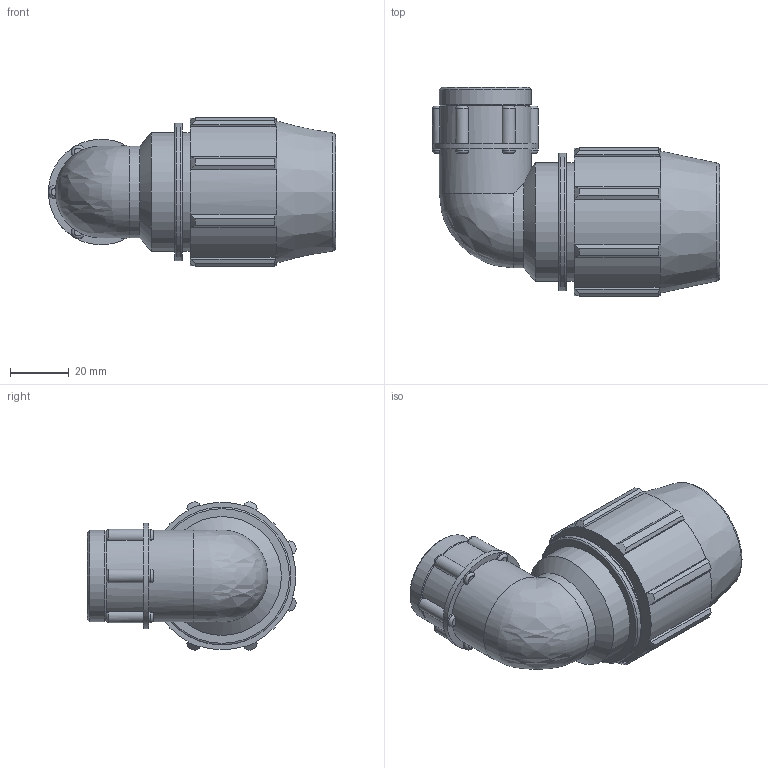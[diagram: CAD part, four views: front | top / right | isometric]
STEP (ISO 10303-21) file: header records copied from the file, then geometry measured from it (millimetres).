
FILE_DESCRIPTION(/* description */ ('PLASSON 90° ELBOW FEMALE ADAPTOR 3/4'''' - 3/4''''F'),/* implementation_level */ '2;1');
FILE_NAME(/* name */ 'C:\Dropbox\KIMPROJECTS-Inventor 2019\99-16-3568-Processing Inch\ASTM Compression 2021\0715M0\0715M0007007.ipt.stp',/* time_stamp */ '2021-08-26T12:33:43+03:00',/* author */ ('KIM'),/* organization */ (''),/* preprocessor_version */ 'ST-DEVELOPER v17.2',/* originating_system */ 'Autodesk Inventor 2019',/* authorisation */ '');
FILE_SCHEMA (('AUTOMOTIVE_DESIGN { 1 0 10303 214 3 1 1 }'));
Length unit declared in the file: inch
Products named in the file (1): 0715M0007007
Bounding box: 98.04 x 71.43 x 50.91 mm (x, y, z)
Volume: 101261.9 mm3; surface area: 29189.6 mm2
Topology: 1 solids, 1 shells, 139 faces, 395 edges, 262 vertices
Faces by surface type: plane 60, cylinder 46, cone 16, torus 15, bspline 2
Full cylindrical faces by diameter (mm): 16.882 x1, 21.705 x1, 24.117 x1, 26.6 x1, 31.352 x2, 36.055 x1, 40.576 x2, 47.069 x1
Entity records: 5046 total; most frequent: CARTESIAN_POINT 1199, DIRECTION 799, ORIENTED_EDGE 782, EDGE_CURVE 391, AXIS2_PLACEMENT_3D 330, VERTEX_POINT 262, CIRCLE 188, EDGE_LOOP 149
